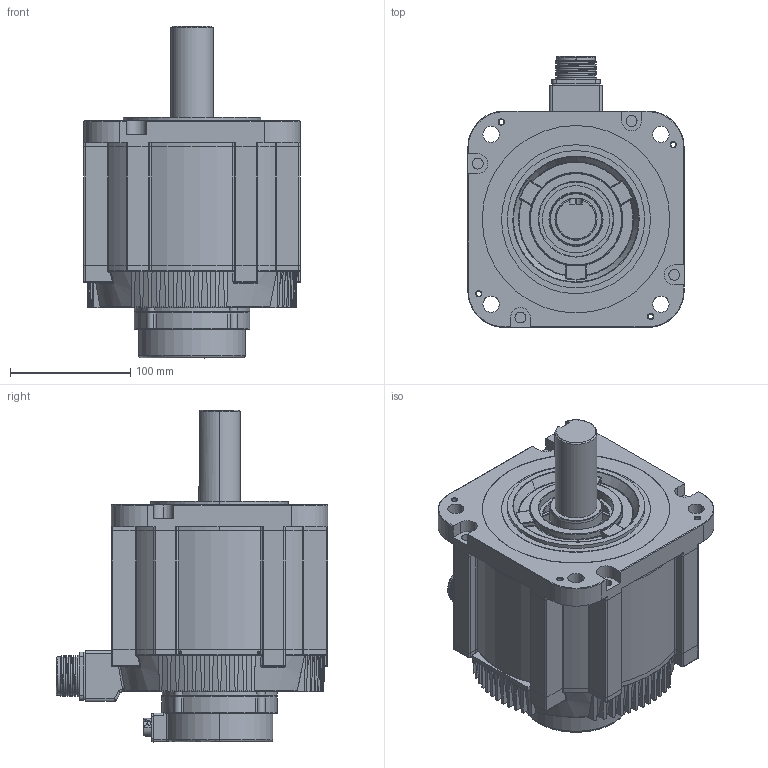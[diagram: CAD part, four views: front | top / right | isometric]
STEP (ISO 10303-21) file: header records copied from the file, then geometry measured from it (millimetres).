
FILE_DESCRIPTION(/* description */ ('SolidWorks IGES file using analytic representation for surfaces '),/* implementation_level */ '2;1');
FILE_NAME(/* name */ 'C:\Users\11755\Desktop\騰禾380V\外型圖\SMP系列_馬達外型圖(客戶版)\3D-STP\SMP-H440.stp',/* time_stamp */ '2021-07-28T11:17:15+08:00',/* author */ ('11755'),/* organization */ (''),/* preprocessor_version */ 'ST-DEVELOPER v17',/* originating_system */ 'Autodesk Inventor 2019',/* authorisation */ '');
FILE_SCHEMA (('AUTOMOTIVE_DESIGN { 1 0 10303 214 3 1 1 }'));
Products named in the file (1): SMP-H440
Bounding box: 180 x 225.8 x 276.3 mm (x, y, z)
Surface area: 283773.1 mm2 (no closed solid volume)
Topology: 0 solids, 1004 shells, 1004 faces, 5122 edges, 5102 vertices
Faces by surface type: cylinder 424, plane 262, bspline 118, cone 108, torus 86, sphere 6
Entity records: 89577 total; most frequent: CARTESIAN_POINT 49078, DIRECTION 7974, EDGE_CURVE 5104, ORIENTED_EDGE 5104, VERTEX_POINT 5102, AXIS2_PLACEMENT_3D 2970, CIRCLE 2052, LINE 2034
